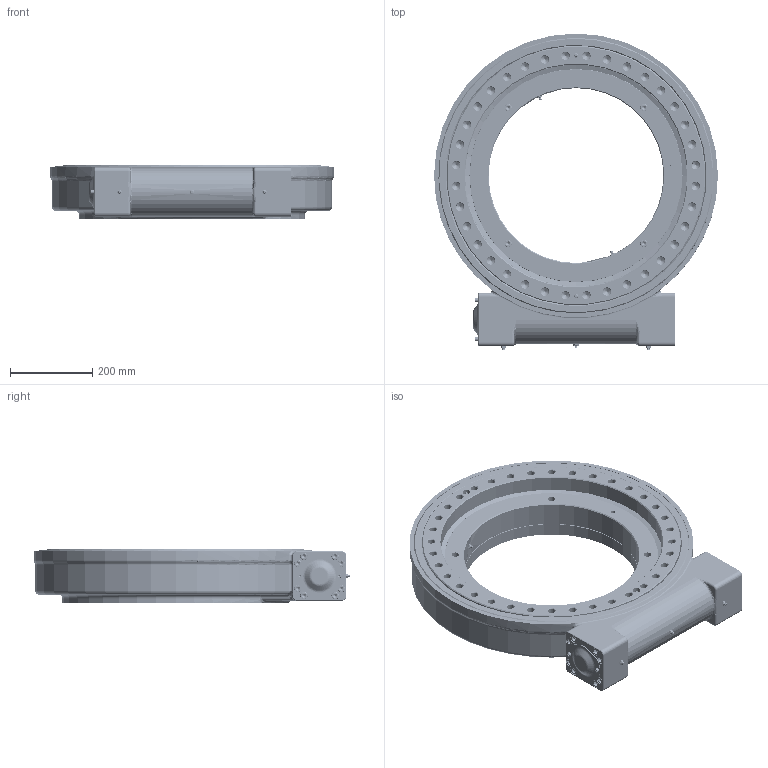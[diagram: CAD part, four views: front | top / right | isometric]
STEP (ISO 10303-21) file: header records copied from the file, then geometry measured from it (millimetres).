
FILE_DESCRIPTION (( 'STEP AP203' ), '1' );
FILE_NAME ('WEA21.STEP', '2026-03-28T08:18:07', ( 'China' ), ( 'Microsoft' ), 'SwSTEP 2.0', 'SolidWorks 2020', '' );
FILE_SCHEMA (( 'CONFIG_CONTROL_DESIGN' ));
Products named in the file (1): WEA21
Bounding box: 690 x 770 x 130 mm (x, y, z)
Volume: 20973187.9 mm3; surface area: 3195263.6 mm2
Topology: 40 solids, 40 shells, 6741 faces, 14812 edges, 8124 vertices
Faces by surface type: cone 3441, cylinder 2232, plane 612, torus 295, bspline 157, sphere 4
Entity records: 275677 total; most frequent: CARTESIAN_POINT 128790, DIRECTION 33091, ORIENTED_EDGE 29152, EDGE_CURVE 14576, AXIS2_PLACEMENT_3D 13471, VERTEX_POINT 8124, EDGE_LOOP 7118, CIRCLE 6886
